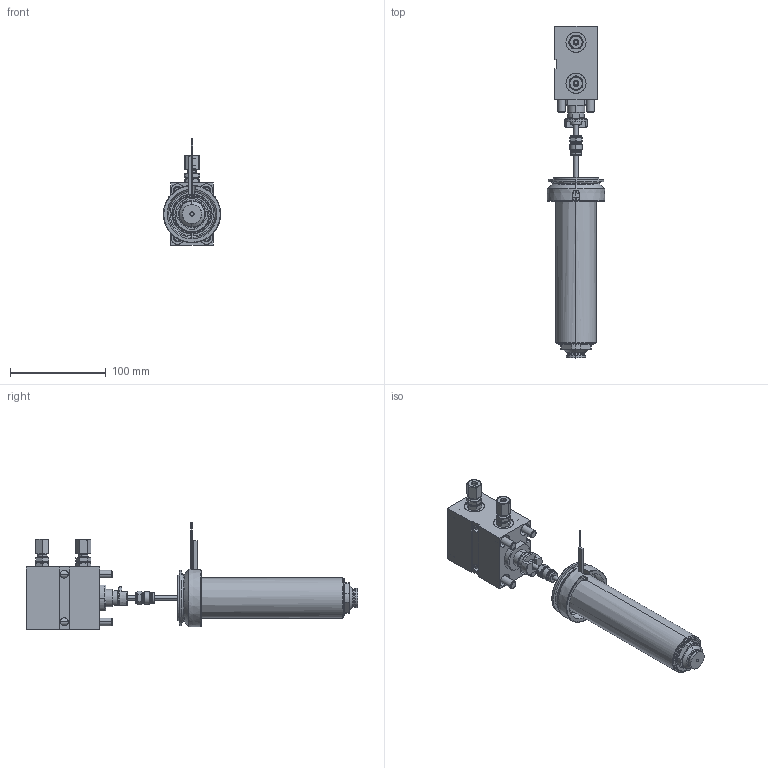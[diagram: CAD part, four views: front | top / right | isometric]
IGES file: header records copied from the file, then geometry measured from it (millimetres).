
Start section: Write IGES format                                    datakit 2008 (c)
Global section: file name: Unknown; native system: DATAKIT Converter; preprocessor: Unknown; author: Unknown; organization: Unknown; date: 950613.180003; units: millimetre
Bounding box: 59.99 x 347.5 x 111.15 mm (x, y, z)
Surface area: 186190.4 mm2 (no closed solid volume)
Topology: 0 solids, 0 shells, 800 faces, 3616 edges, 3598 vertices
Faces by surface type: revolution 516, bspline 284
